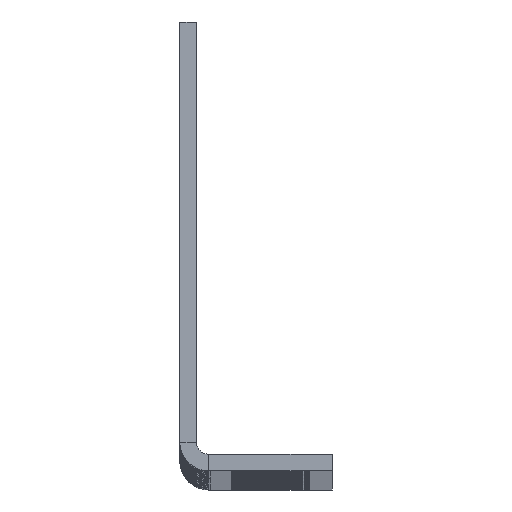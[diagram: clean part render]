
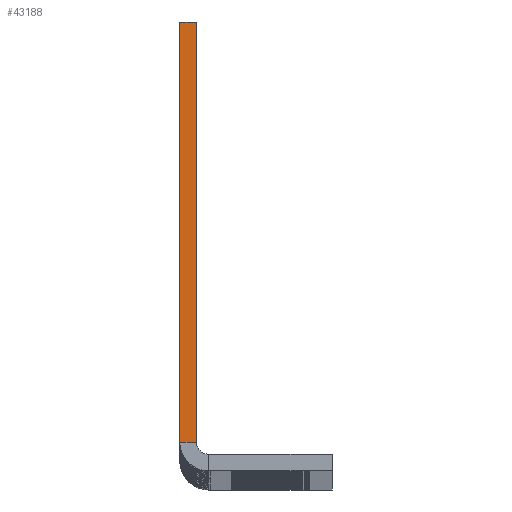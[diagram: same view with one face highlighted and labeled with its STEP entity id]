
A CAD part, top view. The second image highlights one B-rep face of the part: STEP entity #43188.
In plain terms, the highlighted planar face has unit normal (0, 0, 1).
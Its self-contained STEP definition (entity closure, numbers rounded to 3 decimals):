
#4532 = ORIENTED_EDGE ( 'NONE', *, *, #29537, .T. ) ;
#8594 = CARTESIAN_POINT ( 'NONE',  ( 2., 3.5, 666.5 ) ) ;
#9920 = EDGE_CURVE ( 'NONE', #48179, #52470, #35288, .T. ) ;
#11414 = ORIENTED_EDGE ( 'NONE', *, *, #44192, .F. ) ;
#15260 = PLANE ( 'NONE',  #25944 ) ;
#18215 = CARTESIAN_POINT ( 'NONE',  ( 2., 54.5, 666.5 ) ) ;
#19395 = CARTESIAN_POINT ( 'NONE',  ( 2., 0., 666.5 ) ) ;
#20302 = ORIENTED_EDGE ( 'NONE', *, *, #9920, .F. ) ;
#21366 = LINE ( 'NONE', #36510, #42717 ) ;
#21519 = DIRECTION ( 'NONE',  ( 1., 0., 0. ) ) ;
#25944 = AXIS2_PLACEMENT_3D ( 'NONE', #48605, #53423, #21519 ) ;
#28143 = CARTESIAN_POINT ( 'NONE',  ( 0., 54.5, 666.5 ) ) ;
#29537 = EDGE_CURVE ( 'NONE', #30516, #54762, #21366, .T. ) ;
#30516 = VERTEX_POINT ( 'NONE', #28143 ) ;
#30910 = LINE ( 'NONE', #52625, #32441 ) ;
#32071 = FACE_OUTER_BOUND ( 'NONE', #54873, .T. ) ;
#32441 = VECTOR ( 'NONE', #33501, 1000. ) ;
#33501 = DIRECTION ( 'NONE',  ( 1., 0., 0. ) ) ;
#33800 = DIRECTION ( 'NONE',  ( 0., -1., 0. ) ) ;
#35184 = VECTOR ( 'NONE', #33800, 1000. ) ;
#35288 = LINE ( 'NONE', #19395, #35184 ) ;
#35601 = CARTESIAN_POINT ( 'NONE',  ( 0., 3.5, 666.5 ) ) ;
#36433 = DIRECTION ( 'NONE',  ( 1., 0., 0. ) ) ;
#36510 = CARTESIAN_POINT ( 'NONE',  ( 0., 0., 666.5 ) ) ;
#38635 = VECTOR ( 'NONE', #36433, 1000. ) ;
#39777 = EDGE_CURVE ( 'NONE', #54762, #52470, #30910, .T. ) ;
#42717 = VECTOR ( 'NONE', #55253, 1000. ) ;
#43188 = ADVANCED_FACE ( 'NONE', ( #32071 ), #15260, .T. ) ;
#44192 = EDGE_CURVE ( 'NONE', #30516, #48179, #59321, .T. ) ;
#45607 = ORIENTED_EDGE ( 'NONE', *, *, #39777, .T. ) ;
#45919 = CARTESIAN_POINT ( 'NONE',  ( 0., 54.5, 666.5 ) ) ;
#48179 = VERTEX_POINT ( 'NONE', #18215 ) ;
#48605 = CARTESIAN_POINT ( 'NONE',  ( 3.5, 2., 666.5 ) ) ;
#52470 = VERTEX_POINT ( 'NONE', #8594 ) ;
#52625 = CARTESIAN_POINT ( 'NONE',  ( 0., 3.5, 666.5 ) ) ;
#53423 = DIRECTION ( 'NONE',  ( 0., 0., 1. ) ) ;
#54762 = VERTEX_POINT ( 'NONE', #35601 ) ;
#54873 = EDGE_LOOP ( 'NONE', ( #4532, #45607, #20302, #11414 ) ) ;
#55253 = DIRECTION ( 'NONE',  ( 0., -1., 0. ) ) ;
#59321 = LINE ( 'NONE', #45919, #38635 ) ;
